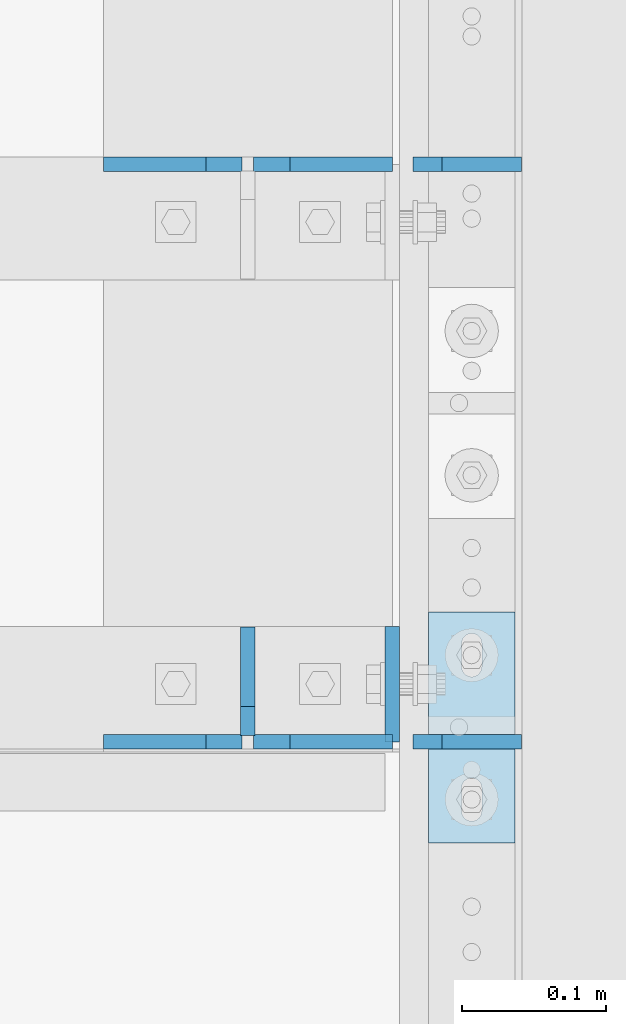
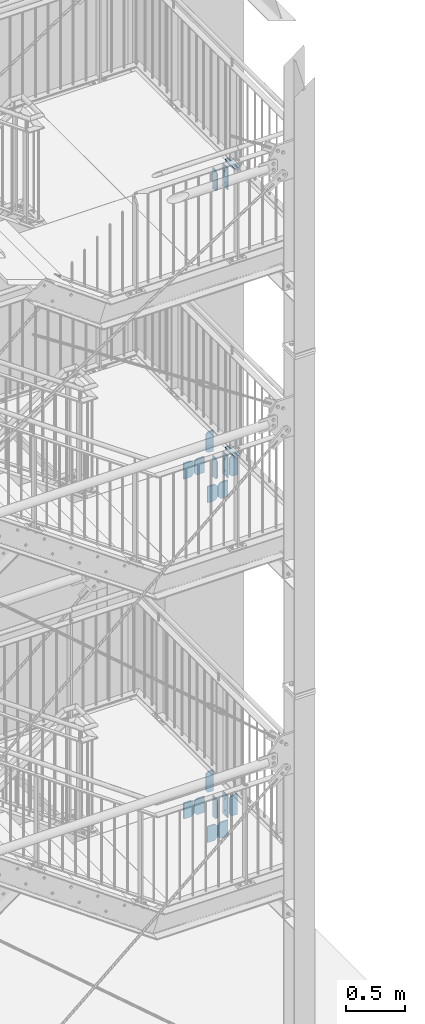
# One storey, part 206 of 831: 20 plates, 46 openings.
"""IFC2X3 building model written with IfcOpenShell, lengths in millimetres."""

import ifcopenshell
import ifcopenshell.guid

model = None  # the IFC model being written
_history = None  # IfcOwnerHistory: only IFC2X3 demands one
_inside = {}  # id of a spatial element -> (the spatial element, [elements in it])
_under = {}  # id of a project, library or spatial element -> (it, [spatial elements below it])
_declared = {}  # id of a project -> (the project, [libraries it declares])
_typed = {}  # id of a type object -> (the type object, [elements of that type])
_made_of = {}  # id of a material, layer set ... -> (it, [elements and type objects made of it])


def new_model(schema):
    """Start an empty IFC model of exactly this schema.

    Asked for "IFC4X3", IfcOpenShell would pick the latest addendum, in which some entities
    have other attributes; the version numbers below select the first issue.
    IFC2X3 requires an IfcOwnerHistory on every rooted entity: one is made here for all.
    """
    global model, _history
    if schema == "IFC4X3":
        model = ifcopenshell.file(schema_version=(4, 3, 0, 0))
    else:
        model = ifcopenshell.file(schema=schema)
    _inside.clear()
    _under.clear()
    _declared.clear()
    _typed.clear()
    _made_of.clear()
    _history = None
    if model.schema == "IFC2X3":
        org = make("IfcOrganization", Name="unknown")
        user = make(
            "IfcPersonAndOrganization",
            ThePerson=make("IfcPerson", FamilyName="unknown"),
            TheOrganization=org,
        )
        app = make(
            "IfcApplication",
            ApplicationDeveloper=org,
            Version="unknown",
            ApplicationFullName="unknown",
            ApplicationIdentifier="unknown",
        )
        _history = make(
            "IfcOwnerHistory",
            OwningUser=user,
            OwningApplication=app,
            ChangeAction="ADDED",
            CreationDate=0,
        )
    return model


def make(cls, **values):
    """One entity of the class cls with the attributes given. An attribute that is None is left unset."""
    return model.create_entity(
        cls, **{name: value for name, value in values.items() if value is not None}
    )


def entity(cls, *values):
    """Any entity or typed value of the class cls, its attributes in the order of the schema. None: left unset."""
    e = model.create_entity(cls)
    for i, value in enumerate(values):
        if value is not None:
            e[i] = value
    return e


def rooted(cls, **values):
    """An entity with a GlobalId (a new one), such as an element, a storey or a relation."""
    return make(cls, GlobalId=ifcopenshell.guid.new(), OwnerHistory=_history, **values)


def si_unit(unit_type, name, prefix=None):
    """IfcSIUnit, for example si_unit("LENGTHUNIT", "METRE", prefix="MILLI")."""
    return make("IfcSIUnit", UnitType=unit_type, Prefix=prefix, Name=name)


def converted_unit(unit_type, name, factor, base, dimensions=None, offset=None):
    """IfcConversionBasedUnit, such as the inch: factor (a typed value) times the base unit."""
    return make(
        "IfcConversionBasedUnit"
        if offset is None
        else "IfcConversionBasedUnitWithOffset",
        ConversionOffset=offset,
        Dimensions=None
        if dimensions is None
        else entity("IfcDimensionalExponents", *dimensions),
        UnitType=unit_type,
        Name=name,
        ConversionFactor=make(
            "IfcMeasureWithUnit", ValueComponent=factor, UnitComponent=base
        ),
    )


def assignment(units):
    """IfcUnitAssignment: the units of a project."""
    return None if units is None else make("IfcUnitAssignment", Units=units)


def point(xyz):
    """IfcCartesianPoint."""
    return None if xyz is None else make("IfcCartesianPoint", Coordinates=xyz)


def direction(xyz):
    """IfcDirection."""
    return None if xyz is None else make("IfcDirection", DirectionRatios=xyz)


def frame(location, z_axis=None, x_axis=None):
    """IfcAxis2Placement3D, a coordinate frame: its origin and axes. An axis left out is left unset."""
    return make(
        "IfcAxis2Placement3D",
        Location=point(location),
        Axis=direction(z_axis),
        RefDirection=direction(x_axis),
    )


def frame_2d(location, x_axis=None):
    """IfcAxis2Placement2D, a coordinate frame in the plane: its origin and x axis."""
    return make(
        "IfcAxis2Placement2D", Location=point(location), RefDirection=direction(x_axis)
    )


def origin():
    """The frame at (0, 0, 0) with its axes left unset."""
    return frame((0.0, 0.0, 0.0))


def origin_with_axes():
    """The frame at (0, 0, 0) with the z axis (0, 0, 1) and the x axis (1, 0, 0) written out."""
    return frame((0.0, 0.0, 0.0), z_axis=(0.0, 0.0, 1.0), x_axis=(1.0, 0.0, 0.0))


def origin_2d_with_axis():
    """The frame at (0, 0) in the plane with the x axis (1, 0) written out."""
    return frame_2d((0.0, 0.0), x_axis=(1.0, 0.0))


def place(relative_to, where):
    """IfcLocalPlacement: puts the frame where relative to a parent placement (None: the world)."""
    return make(
        "IfcLocalPlacement", PlacementRelTo=relative_to, RelativePlacement=where
    )


def context(
    kind, dimensions, precision=None, world=None, true_north=None, identifier=None
):
    """IfcGeometricRepresentationContext, for example the 3D "Model" context."""
    return make(
        "IfcGeometricRepresentationContext",
        ContextIdentifier=identifier,
        ContextType=kind,
        CoordinateSpaceDimension=dimensions,
        Precision=precision,
        WorldCoordinateSystem=world,
        TrueNorth=true_north,
    )


def project(units=None, contexts=None):
    """IfcProject with its units and contexts."""
    return rooted(
        "IfcProject",
        Name="project",
        RepresentationContexts=contexts,
        UnitsInContext=assignment(units),
    )


def spatial(cls, under=None, at=None, **own):
    """A site, building, storey or space (cls), placed at a placement, below another one or the project."""
    s = rooted(cls, ObjectPlacement=at, **own)
    if under is not None:
        _under.setdefault(under.id(), (under, []))[1].append(s)
    return s


def polyline(points):
    """IfcPolyline through the points."""
    return make("IfcPolyline", Points=[point(p) for p in points])


def circle_curve(where, radius):
    """IfcCircle in the frame where."""
    return make("IfcCircle", Position=where, Radius=radius)


def line_curve(start, along, magnitude):
    """IfcLine from a point along a vector."""
    return make(
        "IfcLine",
        Pnt=point(start),
        Dir=make("IfcVector", Orientation=direction(along), Magnitude=magnitude),
    )


def trimmed(basis, trim1, trim2, sense, master):
    """IfcTrimmedCurve: the piece of a basis curve between two trims."""
    return make(
        "IfcTrimmedCurve",
        BasisCurve=basis,
        Trim1=trim1,
        Trim2=trim2,
        SenseAgreement=sense,
        MasterRepresentation=master,
    )


def segment(curve, same_sense, transition):
    """IfcCompositeCurveSegment."""
    return make(
        "IfcCompositeCurveSegment",
        Transition=transition,
        SameSense=same_sense,
        ParentCurve=curve,
    )


def composite_curve(segments, self_intersect=None):
    """IfcCompositeCurve: segments joined end to end."""
    return make("IfcCompositeCurve", Segments=segments, SelfIntersect=self_intersect)


def profile(cls, at=None, kind="AREA", **sizes):
    """A parametric profile (cls). Its sizes go by their IFC names, for example OverallWidth=200.0."""
    return make(cls, ProfileType=kind, Position=at, **sizes)


def circle(**sizes):
    """IfcCircleProfileDef."""
    return profile("IfcCircleProfileDef", **sizes)


def outline(outer, holes=None, kind="AREA"):
    """IfcArbitraryClosedProfileDef: a profile drawn as a closed curve; with holes, ...WithVoids."""
    if holes is None:
        return make("IfcArbitraryClosedProfileDef", ProfileType=kind, OuterCurve=outer)
    return make(
        "IfcArbitraryProfileDefWithVoids",
        ProfileType=kind,
        OuterCurve=outer,
        InnerCurves=holes,
    )


def extrude(swept, where, along, depth):
    """IfcExtrudedAreaSolid: the profile swept, set in the frame where, extruded along a direction by depth."""
    return make(
        "IfcExtrudedAreaSolid",
        SweptArea=swept,
        Position=where,
        ExtrudedDirection=direction(along),
        Depth=depth,
    )


def shape(context_of_items, identifier, shape_type, items):
    """IfcShapeRepresentation: the items that make up one representation, for example the "Body"."""
    return make(
        "IfcShapeRepresentation",
        ContextOfItems=context_of_items,
        RepresentationIdentifier=identifier,
        RepresentationType=shape_type,
        Items=items,
    )


def material(Name=None, Category=None):
    """IfcMaterial."""
    return make("IfcMaterial", Name=Name, Category=Category)


def layer(
    of_material, thickness, ventilated=None, Name=None, Category=None, Priority=None
):
    """IfcMaterialLayer: one layer of a wall or slab, of a material (None: an air gap)."""
    return make(
        "IfcMaterialLayer",
        Material=of_material,
        LayerThickness=thickness,
        IsVentilated=ventilated,
        Name=Name,
        Category=Category,
        Priority=Priority,
    )


def layer_set(layers, Name=None):
    """IfcMaterialLayerSet."""
    return make("IfcMaterialLayerSet", MaterialLayers=layers, LayerSetName=Name)


def made_of(thing, what):
    """Note that an element or type object is made of a material, layer set ...; save() writes the relation."""
    if what is not None:
        _made_of.setdefault(what.id(), (what, []))[1].append(thing)
    return thing


def element(
    cls,
    number,
    at=None,
    inside=None,
    cuts=None,
    type_object=None,
    material=None,
    context=None,
    identifier="Body",
    shape_type=None,
    held_by="IfcProductDefinitionShape",
    body=None,
    shapes=None,
    **own,
):
    """One element of the class cls, such as IfcWall. Its Tag is "e" and its number.

    at: its placement. inside: the storey or other place that contains it. cuts: it is an
    opening in that element (IfcRelVoidsElement). A single representation is given by context,
    identifier, shape_type and body (its items); several are given by shapes. held_by: the class
    of the entity that holds the representations. save() writes the other relations.
    """
    e = rooted(cls, Tag="e%d" % number, ObjectPlacement=at, **own)
    if body is not None:
        shapes = [shape(context, identifier, shape_type, body)]
    if shapes is not None:
        e.Representation = make(held_by, Representations=shapes)
    if inside is not None:
        _inside.setdefault(inside.id(), (inside, []))[1].append(e)
    if cuts is not None:
        rooted(
            "IfcRelVoidsElement", RelatingBuildingElement=cuts, RelatedOpeningElement=e
        )
    if type_object is not None:
        _typed.setdefault(type_object.id(), (type_object, []))[1].append(e)
    return made_of(e, material)


def aggregate(whole, parts):
    """IfcRelAggregates: a whole, such as a stair, and the parts it consists of."""
    return rooted("IfcRelAggregates", RelatingObject=whole, RelatedObjects=parts)


def save(model, path):
    """Write the relations noted so far, then the file.

    IfcRelAggregates (storeys below a building ...), IfcRelContainedInSpatialStructure (elements
    in a storey), IfcRelDefinesByType, IfcRelAssociatesMaterial and IfcRelDeclares: one each for
    every whole, place, type object, material and project.
    """
    for whole, parts in _under.values():
        aggregate(whole, parts)
    for where, things in _inside.values():
        rooted(
            "IfcRelContainedInSpatialStructure",
            RelatedElements=things,
            RelatingStructure=where,
        )
    for kind, things in _typed.values():
        rooted("IfcRelDefinesByType", RelatedObjects=things, RelatingType=kind)
    for what, things in _made_of.values():
        rooted("IfcRelAssociatesMaterial", RelatedObjects=things, RelatingMaterial=what)
    for by, libraries in _declared.values():
        rooted("IfcRelDeclares", RelatingContext=by, RelatedDefinitions=libraries)
    model.write(path)


model = new_model("IFC2X3")

# Units and contexts
model_context = context("Model", 3, precision=1e-09, world=origin_with_axes())
ifc_project = project(units=[si_unit("LENGTHUNIT", "METRE", prefix="MILLI"), si_unit("AREAUNIT", "SQUARE_METRE"), si_unit("VOLUMEUNIT", "CUBIC_METRE"), converted_unit("PLANEANGLEUNIT", "DEGREE", entity("IfcPlaneAngleMeasure", 0.01745329), si_unit("PLANEANGLEUNIT", "RADIAN"), dimensions=[0, 0, 0, 0, 0, 0, 0])], contexts=[model_context])

# Site, building, storey
site_placement = place(None, origin_with_axes())
site = spatial("IfcSite", under=ifc_project, at=site_placement, Name="Site", CompositionType="ELEMENT")
building_placement = place(site_placement, origin_with_axes())
building = spatial("IfcBuilding", under=site, at=building_placement, Name="Struktur 1", CompositionType="ELEMENT")
storey_placement = place(building_placement, origin_with_axes())
storey = spatial("IfcBuildingStorey", under=building, at=storey_placement, Name="Default Storey", CompositionType="ELEMENT", Elevation=0.0)

# Plate, openings
ifc_material = material(Name="S235JR")
ifc_layer_1 = layer(ifc_material, 10.0)
ifc_layer_set_1 = layer_set([ifc_layer_1], Name="S235JR")
plate_1_placement = place(None, frame((8862.713402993, 5736.736971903, 5256.3947367), z_axis=(0.0, 1.0, 0.0), x_axis=(-1.0, 0.0, 0.0)))
plate_1 = element("IfcPlate", 1, at=plate_1_placement, inside=storey, material=ifc_layer_set_1, Name="Stiffener#1", ObjectType="Stiffener#1", context=model_context, shape_type="SweptSolid", body=[
    extrude(outline(polyline([(0.0, 0.0), (96.0, 0.0), (96.0, 167.0), (0.0, 167.0), (0.0, 0.0)])), origin_with_axes(), (0.0, 0.0, 1.0), 10.0),
])
opening_1_placement = place(plate_1_placement, frame((0.0, 0.0, -0.01), z_axis=(0.0, 0.0, 1.0), x_axis=(1.0, 0.0, 0.0)))
element("IfcOpeningElement", 2, at=opening_1_placement, cuts=plate_1, ObjectType="Opening", context=model_context, shape_type="SweptSolid", body=[
    extrude(outline(polyline([(0.0, 167.0), (0.0, 142.0), (25.0, 167.0), (0.0, 167.0)])), origin(), (0.0, 0.0, 1.0), 10.02),
])
opening_2_placement = place(plate_1_placement, frame((0.0, 0.0, -0.01), z_axis=(0.0, 0.0, 1.0), x_axis=(1.0, 0.0, 0.0)))
element("IfcOpeningElement", 3, at=opening_2_placement, cuts=plate_1, ObjectType="Opening", context=model_context, shape_type="SweptSolid", body=[
    extrude(outline(polyline([(0.0, 0.0), (25.0, 0.0), (0.0, 25.0), (0.0, 0.0)])), origin(), (0.0, 0.0, 1.0), 10.02),
])

plate_2_placement = place(None, frame((8966.713402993, 5736.736971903, 5256.3947367), z_axis=(0.0, 1.0, 0.0), x_axis=(-1.0, 0.0, 0.0)))
plate_2 = element("IfcPlate", 4, at=plate_2_placement, inside=storey, material=ifc_layer_set_1, Name="Stiffener#0", ObjectType="Stiffener#0", context=model_context, shape_type="SweptSolid", body=[
    extrude(outline(polyline([(0.0, 0.0), (96.0, 0.0), (96.0, 167.0), (0.0, 167.0), (0.0, 0.0)])), origin_with_axes(), (0.0, 0.0, 1.0), 10.0),
])
opening_3_placement = place(plate_2_placement, frame((0.0, 0.0, -0.01), z_axis=(0.0, 0.0, 1.0), x_axis=(1.0, 0.0, 0.0)))
element("IfcOpeningElement", 5, at=opening_3_placement, cuts=plate_2, ObjectType="Opening", context=model_context, shape_type="SweptSolid", body=[
    extrude(outline(polyline([(96.0, 167.0), (71.0, 167.0), (96.0, 142.0), (96.0, 167.0)])), origin(), (0.0, 0.0, 1.0), 10.02),
])
opening_4_placement = place(plate_2_placement, frame((0.0, 0.0, -0.01), z_axis=(0.0, 0.0, 1.0), x_axis=(1.0, 0.0, 0.0)))
element("IfcOpeningElement", 6, at=opening_4_placement, cuts=plate_2, ObjectType="Opening", context=model_context, shape_type="SweptSolid", body=[
    extrude(outline(polyline([(96.0, 0.0), (96.0, 25.0), (71.0, 0.0), (96.0, 0.0)])), origin(), (0.0, 0.0, 1.0), 10.02),
])

plate_3_placement = place(None, frame((8981.213402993, 5736.736971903, 5657.749898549), z_axis=(0.0, 1.0, 0.0), x_axis=(0.996815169, 0.0, 0.079746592)))
plate_3 = element("IfcPlate", 7, at=plate_3_placement, inside=storey, material=ifc_layer_set_1, Name="Stiffener#1", ObjectType="Stiffener#1", context=model_context, shape_type="SweptSolid", body=[
    extrude(outline(polyline([(0.0, 0.0), (75.239625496, 0.0), (57.877952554, 217.017159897), (-16.404697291, 205.05517107), (0.0, 0.0)])), origin_with_axes(), (0.0, 0.0, 1.0), 10.0),
])
opening_5_placement = place(plate_3_placement, frame((0.0, 0.0, -0.01), z_axis=(0.0, 0.0, 1.0), x_axis=(1.0, 0.0, 0.0)))
element("IfcOpeningElement", 8, at=opening_5_placement, cuts=plate_3, ObjectType="Opening", context=model_context, shape_type="SweptSolid", body=[
    extrude(outline(polyline([(-16.404697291, 205.05517107), (-14.809765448, 185.118867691), (3.34092195, 208.23487558), (-16.404697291, 205.05517107)])), origin(), (0.0, 0.0, 1.0), 10.02),
])
opening_6_placement = place(plate_3_placement, frame((0.0, 0.0, -0.01), z_axis=(0.0, 0.0, 1.0), x_axis=(1.0, 0.0, 0.0)))
element("IfcOpeningElement", 9, at=opening_6_placement, cuts=plate_3, ObjectType="Opening", context=model_context, shape_type="SweptSolid", body=[
    extrude(outline(polyline([(0.0, 0.0), (20.0, 0.0), (-1.594931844, 19.936303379), (0.0, 0.0)])), origin(), (0.0, 0.0, 1.0), 10.02),
])

plate_4_placement = place(None, frame((8981.213402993, 6136.736971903, 5657.749898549), z_axis=(0.0, 1.0, 0.0), x_axis=(0.996815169, 0.0, 0.079746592)))
plate_4 = element("IfcPlate", 10, at=plate_4_placement, inside=storey, material=ifc_layer_set_1, Name="Stiffener#1", ObjectType="Stiffener#1", context=model_context, shape_type="SweptSolid", body=[
    extrude(outline(polyline([(0.0, 0.0), (75.239625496, 0.0), (57.877952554, 217.017159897), (-16.404697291, 205.05517107), (0.0, 0.0)])), origin_with_axes(), (0.0, 0.0, 1.0), 10.0),
])
opening_7_placement = place(plate_4_placement, frame((0.0, 0.0, -0.01), z_axis=(0.0, 0.0, 1.0), x_axis=(1.0, 0.0, 0.0)))
element("IfcOpeningElement", 11, at=opening_7_placement, cuts=plate_4, ObjectType="Opening", context=model_context, shape_type="SweptSolid", body=[
    extrude(outline(polyline([(-16.404697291, 205.05517107), (-14.809765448, 185.118867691), (3.34092195, 208.23487558), (-16.404697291, 205.05517107)])), origin(), (0.0, 0.0, 1.0), 10.02),
])
opening_8_placement = place(plate_4_placement, frame((0.0, 0.0, -0.01), z_axis=(0.0, 0.0, 1.0), x_axis=(1.0, 0.0, 0.0)))
element("IfcOpeningElement", 12, at=opening_8_placement, cuts=plate_4, ObjectType="Opening", context=model_context, shape_type="SweptSolid", body=[
    extrude(outline(polyline([(0.0, 0.0), (20.0, 0.0), (-1.594931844, 19.936303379), (0.0, 0.0)])), origin(), (0.0, 0.0, 1.0), 10.02),
])

plate_5_placement = place(None, frame((8862.713402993, 6136.736971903, 5256.3947367), z_axis=(0.0, 1.0, 0.0), x_axis=(-1.0, 0.0, 0.0)))
plate_5 = element("IfcPlate", 13, at=plate_5_placement, inside=storey, material=ifc_layer_set_1, Name="Stiffener#1", ObjectType="Stiffener#1", context=model_context, shape_type="SweptSolid", body=[
    extrude(outline(polyline([(0.0, 0.0), (96.0, 0.0), (96.0, 167.0), (0.0, 167.0), (0.0, 0.0)])), origin_with_axes(), (0.0, 0.0, 1.0), 10.0),
])
opening_9_placement = place(plate_5_placement, frame((0.0, 0.0, -0.01), z_axis=(0.0, 0.0, 1.0), x_axis=(1.0, 0.0, 0.0)))
element("IfcOpeningElement", 14, at=opening_9_placement, cuts=plate_5, ObjectType="Opening", context=model_context, shape_type="SweptSolid", body=[
    extrude(outline(polyline([(0.0, 167.0), (0.0, 142.0), (25.0, 167.0), (0.0, 167.0)])), origin(), (0.0, 0.0, 1.0), 10.02),
])
opening_10_placement = place(plate_5_placement, frame((0.0, 0.0, -0.01), z_axis=(0.0, 0.0, 1.0), x_axis=(1.0, 0.0, 0.0)))
element("IfcOpeningElement", 15, at=opening_10_placement, cuts=plate_5, ObjectType="Opening", context=model_context, shape_type="SweptSolid", body=[
    extrude(outline(polyline([(0.0, 0.0), (25.0, 0.0), (0.0, 25.0), (0.0, 0.0)])), origin(), (0.0, 0.0, 1.0), 10.02),
])

plate_6_placement = place(None, frame((8966.713402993, 6136.736971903, 5256.3947367), z_axis=(0.0, 1.0, 0.0), x_axis=(-1.0, 0.0, 0.0)))
plate_6 = element("IfcPlate", 16, at=plate_6_placement, inside=storey, material=ifc_layer_set_1, Name="Stiffener#0", ObjectType="Stiffener#0", context=model_context, shape_type="SweptSolid", body=[
    extrude(outline(polyline([(0.0, 0.0), (96.0, 0.0), (96.0, 167.0), (0.0, 167.0), (0.0, 0.0)])), origin_with_axes(), (0.0, 0.0, 1.0), 10.0),
])
opening_11_placement = place(plate_6_placement, frame((0.0, 0.0, -0.01), z_axis=(0.0, 0.0, 1.0), x_axis=(1.0, 0.0, 0.0)))
element("IfcOpeningElement", 17, at=opening_11_placement, cuts=plate_6, ObjectType="Opening", context=model_context, shape_type="SweptSolid", body=[
    extrude(outline(polyline([(96.0, 167.0), (71.0, 167.0), (96.0, 142.0), (96.0, 167.0)])), origin(), (0.0, 0.0, 1.0), 10.02),
])
opening_12_placement = place(plate_6_placement, frame((0.0, 0.0, -0.01), z_axis=(0.0, 0.0, 1.0), x_axis=(1.0, 0.0, 0.0)))
element("IfcOpeningElement", 18, at=opening_12_placement, cuts=plate_6, ObjectType="Opening", context=model_context, shape_type="SweptSolid", body=[
    extrude(outline(polyline([(96.0, 0.0), (96.0, 25.0), (71.0, 0.0), (96.0, 0.0)])), origin(), (0.0, 0.0, 1.0), 10.02),
])

plate_7_placement = place(None, frame((8981.213402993, 5736.736971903, 2163.907793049), z_axis=(0.0, 1.0, 0.0), x_axis=(0.996815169, 0.0, 0.079746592)))
plate_7 = element("IfcPlate", 19, at=plate_7_placement, inside=storey, material=ifc_layer_set_1, Name="Stiffener#1", ObjectType="Stiffener#1", context=model_context, shape_type="SweptSolid", body=[
    extrude(outline(polyline([(0.0, 0.0), (75.239625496, 0.0), (57.877952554, 217.017159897), (-16.404697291, 205.05517107), (0.0, 0.0)])), origin_with_axes(), (0.0, 0.0, 1.0), 10.0),
])
opening_13_placement = place(plate_7_placement, frame((0.0, 0.0, -0.01), z_axis=(0.0, 0.0, 1.0), x_axis=(1.0, 0.0, 0.0)))
element("IfcOpeningElement", 20, at=opening_13_placement, cuts=plate_7, ObjectType="Opening", context=model_context, shape_type="SweptSolid", body=[
    extrude(outline(polyline([(-16.404697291, 205.05517107), (-14.809765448, 185.118867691), (3.34092195, 208.23487558), (-16.404697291, 205.05517107)])), origin(), (0.0, 0.0, 1.0), 10.02),
])
opening_14_placement = place(plate_7_placement, frame((0.0, 0.0, -0.01), z_axis=(0.0, 0.0, 1.0), x_axis=(1.0, 0.0, 0.0)))
element("IfcOpeningElement", 21, at=opening_14_placement, cuts=plate_7, ObjectType="Opening", context=model_context, shape_type="SweptSolid", body=[
    extrude(outline(polyline([(0.0, 0.0), (20.0, 0.0), (-1.594931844, 19.936303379), (0.0, 0.0)])), origin(), (0.0, 0.0, 1.0), 10.02),
])

plate_8_placement = place(None, frame((8862.713402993, 5736.736971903, 1762.5526312), z_axis=(0.0, 1.0, 0.0), x_axis=(-1.0, 0.0, 0.0)))
plate_8 = element("IfcPlate", 22, at=plate_8_placement, inside=storey, material=ifc_layer_set_1, Name="Stiffener#1", ObjectType="Stiffener#1", context=model_context, shape_type="SweptSolid", body=[
    extrude(outline(polyline([(0.0, 0.0), (96.0, 0.0), (96.0, 167.0), (0.0, 167.0), (0.0, 0.0)])), origin_with_axes(), (0.0, 0.0, 1.0), 10.0),
])
opening_15_placement = place(plate_8_placement, frame((0.0, 0.0, -0.01), z_axis=(0.0, 0.0, 1.0), x_axis=(1.0, 0.0, 0.0)))
element("IfcOpeningElement", 23, at=opening_15_placement, cuts=plate_8, ObjectType="Opening", context=model_context, shape_type="SweptSolid", body=[
    extrude(outline(polyline([(0.0, 167.0), (0.0, 142.0), (25.0, 167.0), (0.0, 167.0)])), origin(), (0.0, 0.0, 1.0), 10.02),
])
opening_16_placement = place(plate_8_placement, frame((0.0, 0.0, -0.01), z_axis=(0.0, 0.0, 1.0), x_axis=(1.0, 0.0, 0.0)))
element("IfcOpeningElement", 24, at=opening_16_placement, cuts=plate_8, ObjectType="Opening", context=model_context, shape_type="SweptSolid", body=[
    extrude(outline(polyline([(0.0, 0.0), (25.0, 0.0), (0.0, 25.0), (0.0, 0.0)])), origin(), (0.0, 0.0, 1.0), 10.02),
])

plate_9_placement = place(None, frame((8966.713402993, 5736.736971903, 1762.5526312), z_axis=(0.0, 1.0, 0.0), x_axis=(-1.0, 0.0, 0.0)))
plate_9 = element("IfcPlate", 25, at=plate_9_placement, inside=storey, material=ifc_layer_set_1, Name="Stiffener#0", ObjectType="Stiffener#0", context=model_context, shape_type="SweptSolid", body=[
    extrude(outline(polyline([(0.0, 0.0), (96.0, 0.0), (96.0, 167.0), (0.0, 167.0), (0.0, 0.0)])), origin_with_axes(), (0.0, 0.0, 1.0), 10.0),
])
opening_17_placement = place(plate_9_placement, frame((0.0, 0.0, -0.01), z_axis=(0.0, 0.0, 1.0), x_axis=(1.0, 0.0, 0.0)))
element("IfcOpeningElement", 26, at=opening_17_placement, cuts=plate_9, ObjectType="Opening", context=model_context, shape_type="SweptSolid", body=[
    extrude(outline(polyline([(96.0, 167.0), (71.0, 167.0), (96.0, 142.0), (96.0, 167.0)])), origin(), (0.0, 0.0, 1.0), 10.02),
])
opening_18_placement = place(plate_9_placement, frame((0.0, 0.0, -0.01), z_axis=(0.0, 0.0, 1.0), x_axis=(1.0, 0.0, 0.0)))
element("IfcOpeningElement", 27, at=opening_18_placement, cuts=plate_9, ObjectType="Opening", context=model_context, shape_type="SweptSolid", body=[
    extrude(outline(polyline([(96.0, 0.0), (96.0, 25.0), (71.0, 0.0), (96.0, 0.0)])), origin(), (0.0, 0.0, 1.0), 10.02),
])

plate_10_placement = place(None, frame((8981.213402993, 6136.736971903, 2163.907793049), z_axis=(0.0, 1.0, 0.0), x_axis=(0.996815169, 0.0, 0.079746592)))
plate_10 = element("IfcPlate", 28, at=plate_10_placement, inside=storey, material=ifc_layer_set_1, Name="Stiffener#1", ObjectType="Stiffener#1", context=model_context, shape_type="SweptSolid", body=[
    extrude(outline(polyline([(0.0, 0.0), (75.239625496, 0.0), (57.877952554, 217.017159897), (-16.404697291, 205.05517107), (0.0, 0.0)])), origin_with_axes(), (0.0, 0.0, 1.0), 10.0),
])
opening_19_placement = place(plate_10_placement, frame((0.0, 0.0, -0.01), z_axis=(0.0, 0.0, 1.0), x_axis=(1.0, 0.0, 0.0)))
element("IfcOpeningElement", 29, at=opening_19_placement, cuts=plate_10, ObjectType="Opening", context=model_context, shape_type="SweptSolid", body=[
    extrude(outline(polyline([(-16.404697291, 205.05517107), (-14.809765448, 185.118867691), (3.34092195, 208.23487558), (-16.404697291, 205.05517107)])), origin(), (0.0, 0.0, 1.0), 10.02),
])
opening_20_placement = place(plate_10_placement, frame((0.0, 0.0, -0.01), z_axis=(0.0, 0.0, 1.0), x_axis=(1.0, 0.0, 0.0)))
element("IfcOpeningElement", 30, at=opening_20_placement, cuts=plate_10, ObjectType="Opening", context=model_context, shape_type="SweptSolid", body=[
    extrude(outline(polyline([(0.0, 0.0), (20.0, 0.0), (-1.594931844, 19.936303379), (0.0, 0.0)])), origin(), (0.0, 0.0, 1.0), 10.02),
])

plate_11_placement = place(None, frame((8862.713402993, 6136.736971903, 1762.5526312), z_axis=(0.0, 1.0, 0.0), x_axis=(-1.0, 0.0, 0.0)))
plate_11 = element("IfcPlate", 31, at=plate_11_placement, inside=storey, material=ifc_layer_set_1, Name="Stiffener#1", ObjectType="Stiffener#1", context=model_context, shape_type="SweptSolid", body=[
    extrude(outline(polyline([(0.0, 0.0), (96.0, 0.0), (96.0, 167.0), (0.0, 167.0), (0.0, 0.0)])), origin_with_axes(), (0.0, 0.0, 1.0), 10.0),
])
opening_21_placement = place(plate_11_placement, frame((0.0, 0.0, -0.01), z_axis=(0.0, 0.0, 1.0), x_axis=(1.0, 0.0, 0.0)))
element("IfcOpeningElement", 32, at=opening_21_placement, cuts=plate_11, ObjectType="Opening", context=model_context, shape_type="SweptSolid", body=[
    extrude(outline(polyline([(0.0, 167.0), (0.0, 142.0), (25.0, 167.0), (0.0, 167.0)])), origin(), (0.0, 0.0, 1.0), 10.02),
])
opening_22_placement = place(plate_11_placement, frame((0.0, 0.0, -0.01), z_axis=(0.0, 0.0, 1.0), x_axis=(1.0, 0.0, 0.0)))
element("IfcOpeningElement", 33, at=opening_22_placement, cuts=plate_11, ObjectType="Opening", context=model_context, shape_type="SweptSolid", body=[
    extrude(outline(polyline([(0.0, 0.0), (25.0, 0.0), (0.0, 25.0), (0.0, 0.0)])), origin(), (0.0, 0.0, 1.0), 10.02),
])

plate_12_placement = place(None, frame((8966.713402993, 6136.736971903, 1762.5526312), z_axis=(0.0, 1.0, 0.0), x_axis=(-1.0, 0.0, 0.0)))
plate_12 = element("IfcPlate", 34, at=plate_12_placement, inside=storey, material=ifc_layer_set_1, Name="Stiffener#0", ObjectType="Stiffener#0", context=model_context, shape_type="SweptSolid", body=[
    extrude(outline(polyline([(0.0, 0.0), (96.0, 0.0), (96.0, 167.0), (0.0, 167.0), (0.0, 0.0)])), origin_with_axes(), (0.0, 0.0, 1.0), 10.0),
])
opening_23_placement = place(plate_12_placement, frame((0.0, 0.0, -0.01), z_axis=(0.0, 0.0, 1.0), x_axis=(1.0, 0.0, 0.0)))
element("IfcOpeningElement", 35, at=opening_23_placement, cuts=plate_12, ObjectType="Opening", context=model_context, shape_type="SweptSolid", body=[
    extrude(outline(polyline([(96.0, 167.0), (71.0, 167.0), (96.0, 142.0), (96.0, 167.0)])), origin(), (0.0, 0.0, 1.0), 10.02),
])
opening_24_placement = place(plate_12_placement, frame((0.0, 0.0, -0.01), z_axis=(0.0, 0.0, 1.0), x_axis=(1.0, 0.0, 0.0)))
element("IfcOpeningElement", 36, at=opening_24_placement, cuts=plate_12, ObjectType="Opening", context=model_context, shape_type="SweptSolid", body=[
    extrude(outline(polyline([(96.0, 0.0), (96.0, 25.0), (71.0, 0.0), (96.0, 0.0)])), origin(), (0.0, 0.0, 1.0), 10.02),
])

ifc_layer_2 = layer(ifc_material, 20.0)
ifc_layer_set_2 = layer_set([ifc_layer_2], Name="S235JR")
plate_13_placement = place(None, frame((9051.713402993, 5671.736114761, 5674.8947367), z_axis=(0.0, 0.0, 1.0), x_axis=(0.0, 1.0, 0.0)))
plate_13 = element("IfcPlate", 37, at=plate_13_placement, inside=storey, material=ifc_layer_set_2, Name="Plate#506", ObjectType="Plate#506", context=model_context, shape_type="SweptSolid", body=[
    extrude(outline(polyline([(0.0, 0.0), (160.0, 0.0), (160.0, 60.0), (0.0, 60.0), (0.0, 0.0)])), origin_with_axes(), (0.0, 0.0, 1.0), 20.0),
])
opening_25_placement = place(plate_13_placement, frame((38.0, 37.001, 20.5), z_axis=(0.0, 0.0, 1.0), x_axis=(-1.0, 0.0, 0.0)))
element("IfcOpeningElement", 38, at=opening_25_placement, cuts=plate_13, ObjectType="Opening", context=model_context, shape_type="SweptSolid", body=[
    extrude(outline(composite_curve([segment(trimmed(line_curve((0.0, 0.0), (1.0, 0.0), 16.0), [point((0.0, 0.0))], [point((16.0, 0.0))], True, "CARTESIAN"), True, "CONTINUOUS"), segment(trimmed(circle_curve(frame_2d((16.0, 7.001), x_axis=(1.0, 0.0)), 7.001), [point((16.0, 0.0))], [point((16.0, 14.002))], True, "CARTESIAN"), True, "CONTINUOUS"), segment(trimmed(line_curve((16.0, 14.002), (-1.0, 0.0), 16.0), [point((16.0, 14.002))], [point((0.0, 14.002))], True, "CARTESIAN"), True, "CONTINUOUS"), segment(trimmed(circle_curve(frame_2d((0.0, 7.001), x_axis=(1.0, 0.0)), 7.001), [point((0.0, 14.002))], [point((0.0, 0.0))], True, "CARTESIAN"), True, "CONTINUOUS")], self_intersect=False)), origin(), (0.0, 0.0, -1.0), 21.0),
])
opening_26_placement = place(plate_13_placement, frame((138.0, 37.001, 20.5), z_axis=(0.0, 0.0, 1.0), x_axis=(-1.0, 0.0, 0.0)))
element("IfcOpeningElement", 39, at=opening_26_placement, cuts=plate_13, ObjectType="Opening", context=model_context, shape_type="SweptSolid", body=[
    extrude(outline(composite_curve([segment(trimmed(line_curve((0.0, 0.0), (1.0, 0.0), 16.0), [point((0.0, 0.0))], [point((16.0, 0.0))], True, "CARTESIAN"), True, "CONTINUOUS"), segment(trimmed(circle_curve(frame_2d((16.0, 7.001), x_axis=(1.0, 0.0)), 7.001), [point((16.0, 0.0))], [point((16.0, 14.002))], True, "CARTESIAN"), True, "CONTINUOUS"), segment(trimmed(line_curve((16.0, 14.002), (-1.0, 0.0), 16.0), [point((16.0, 14.002))], [point((0.0, 14.002))], True, "CARTESIAN"), True, "CONTINUOUS"), segment(trimmed(circle_curve(frame_2d((0.0, 7.001), x_axis=(1.0, 0.0)), 7.001), [point((0.0, 14.002))], [point((0.0, 0.0))], True, "CARTESIAN"), True, "CONTINUOUS")], self_intersect=False)), origin(), (0.0, 0.0, -1.0), 21.0),
])

plate_14_placement = place(None, frame((9051.713402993, 5671.736114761, 8636.0), z_axis=(0.0, 0.0, 1.0), x_axis=(0.0, 1.0, 0.0)))
plate_14 = element("IfcPlate", 40, at=plate_14_placement, inside=storey, material=ifc_layer_set_2, Name="Plate#506", ObjectType="Plate#506", context=model_context, shape_type="SweptSolid", body=[
    extrude(outline(polyline([(0.0, 0.0), (160.0, 0.0), (160.0, 60.0), (0.0, 60.0), (0.0, 0.0)])), origin_with_axes(), (0.0, 0.0, 1.0), 20.0),
])
opening_27_placement = place(plate_14_placement, frame((38.0, 37.001, 20.5), z_axis=(0.0, 0.0, 1.0), x_axis=(-1.0, 0.0, 0.0)))
element("IfcOpeningElement", 41, at=opening_27_placement, cuts=plate_14, ObjectType="Opening", context=model_context, shape_type="SweptSolid", body=[
    extrude(outline(composite_curve([segment(trimmed(line_curve((0.0, 0.0), (1.0, 0.0), 16.0), [point((0.0, 0.0))], [point((16.0, 0.0))], True, "CARTESIAN"), True, "CONTINUOUS"), segment(trimmed(circle_curve(frame_2d((16.0, 7.001), x_axis=(1.0, 0.0)), 7.001), [point((16.0, 0.0))], [point((16.0, 14.002))], True, "CARTESIAN"), True, "CONTINUOUS"), segment(trimmed(line_curve((16.0, 14.002), (-1.0, 0.0), 16.0), [point((16.0, 14.002))], [point((0.0, 14.002))], True, "CARTESIAN"), True, "CONTINUOUS"), segment(trimmed(circle_curve(frame_2d((0.0, 7.001), x_axis=(1.0, 0.0)), 7.001), [point((0.0, 14.002))], [point((0.0, 0.0))], True, "CARTESIAN"), True, "CONTINUOUS")], self_intersect=False)), origin(), (0.0, 0.0, -1.0), 21.0),
])
opening_28_placement = place(plate_14_placement, frame((138.0, 37.001, 20.5), z_axis=(0.0, 0.0, 1.0), x_axis=(-1.0, 0.0, 0.0)))
element("IfcOpeningElement", 42, at=opening_28_placement, cuts=plate_14, ObjectType="Opening", context=model_context, shape_type="SweptSolid", body=[
    extrude(outline(composite_curve([segment(trimmed(line_curve((0.0, 0.0), (1.0, 0.0), 16.0), [point((0.0, 0.0))], [point((16.0, 0.0))], True, "CARTESIAN"), True, "CONTINUOUS"), segment(trimmed(circle_curve(frame_2d((16.0, 7.001), x_axis=(1.0, 0.0)), 7.001), [point((16.0, 0.0))], [point((16.0, 14.002))], True, "CARTESIAN"), True, "CONTINUOUS"), segment(trimmed(line_curve((16.0, 14.002), (-1.0, 0.0), 16.0), [point((16.0, 14.002))], [point((0.0, 14.002))], True, "CARTESIAN"), True, "CONTINUOUS"), segment(trimmed(circle_curve(frame_2d((0.0, 7.001), x_axis=(1.0, 0.0)), 7.001), [point((0.0, 14.002))], [point((0.0, 0.0))], True, "CARTESIAN"), True, "CONTINUOUS")], self_intersect=False)), origin(), (0.0, 0.0, -1.0), 21.0),
])

plate_15_placement = place(None, frame((8861.713402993, 5821.236971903, 2169.907896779), z_axis=(1.0, 0.0, 0.0), x_axis=(0.0, -0.996815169, -0.079746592)))
plate_15 = element("IfcPlate", 43, at=plate_15_placement, inside=storey, material=ifc_layer_set_1, Name="Stiffener#1", ObjectType="Stiffener#1", context=model_context, shape_type="SweptSolid", body=[
    extrude(outline(polyline([(0.0, 0.0), (75.239625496, 0.0), (91.644322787, 205.05517107), (17.361672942, 217.017159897), (0.0, 0.0)])), origin_with_axes(), (0.0, 0.0, 1.0), 10.0),
])
opening_29_placement = place(plate_15_placement, frame((0.0, 0.0, -0.01), z_axis=(0.0, 0.0, 1.0), x_axis=(1.0, 0.0, 0.0)))
element("IfcOpeningElement", 44, at=opening_29_placement, cuts=plate_15, ObjectType="Opening", context=model_context, shape_type="SweptSolid", body=[
    extrude(outline(polyline([(91.644322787, 205.05517107), (71.898703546, 208.23487558), (90.049390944, 185.118867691), (91.644322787, 205.05517107)])), origin(), (0.0, 0.0, 1.0), 10.02),
])
opening_30_placement = place(plate_15_placement, frame((0.0, 0.0, -0.01), z_axis=(0.0, 0.0, 1.0), x_axis=(1.0, 0.0, 0.0)))
element("IfcOpeningElement", 45, at=opening_30_placement, cuts=plate_15, ObjectType="Opening", context=model_context, shape_type="SweptSolid", body=[
    extrude(outline(polyline([(75.239625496, 0.0), (76.83455734, 19.936303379), (55.239625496, 0.0), (75.239625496, 0.0)])), origin(), (0.0, 0.0, 1.0), 10.02),
])

plate_16_placement = place(None, frame((8971.713402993, 5741.736971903, 2176.0526312), z_axis=(-1.0, 0.0, 0.0), x_axis=(0.0, 1.0, 0.0)))
plate_16 = element("IfcPlate", 46, at=plate_16_placement, inside=storey, material=ifc_layer_set_1, Name="Endplate", ObjectType="Endplate", context=model_context, shape_type="SweptSolid", body=[
    extrude(outline(polyline([(0.0, 0.0), (80.0, 0.0), (80.0, 230.0), (0.0, 230.0), (0.0, 0.0)])), origin_with_axes(), (0.0, 0.0, 1.0), 10.0),
])
opening_31_placement = place(plate_16_placement, frame((17.5, 209.0, -0.5), z_axis=(0.0, 0.0, 1.0), x_axis=(0.0, -1.0, 0.0)))
element("IfcOpeningElement", 47, at=opening_31_placement, cuts=plate_16, ObjectType="Opening", context=model_context, shape_type="SweptSolid", body=[
    extrude(circle(Radius=6.001, at=origin_2d_with_axis()), origin(), (0.0, 0.0, 1.0), 11.0),
])
opening_32_placement = place(plate_16_placement, frame((17.5, 21.0, -0.5), z_axis=(0.0, 0.0, 1.0), x_axis=(0.0, -1.0, 0.0)))
element("IfcOpeningElement", 48, at=opening_32_placement, cuts=plate_16, ObjectType="Opening", context=model_context, shape_type="SweptSolid", body=[
    extrude(circle(Radius=6.001, at=origin_2d_with_axis()), origin(), (0.0, 0.0, 1.0), 11.0),
])
opening_33_placement = place(plate_16_placement, frame((40.0, 115.0, -0.5), z_axis=(0.0, 0.0, 1.0), x_axis=(0.0, -1.0, 0.0)))
element("IfcOpeningElement", 49, at=opening_33_placement, cuts=plate_16, ObjectType="Opening", context=model_context, shape_type="SweptSolid", body=[
    extrude(circle(Radius=9.001, at=frame_2d((60.0, 0.0), x_axis=(1.0, 0.0))), origin(), (0.0, 0.0, 1.0), 11.0),
])
opening_34_placement = place(plate_16_placement, frame((40.0, 115.0, -0.5), z_axis=(0.0, 0.0, 1.0), x_axis=(0.0, -1.0, 0.0)))
element("IfcOpeningElement", 50, at=opening_34_placement, cuts=plate_16, ObjectType="Opening", context=model_context, shape_type="SweptSolid", body=[
    extrude(circle(Radius=9.001, at=frame_2d((-60.0, 0.0), x_axis=(1.0, 0.0))), origin(), (0.0, 0.0, 1.0), 11.0),
])

plate_17_placement = place(None, frame((8861.713402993, 5821.236971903, 5663.750002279), z_axis=(1.0, 0.0, 0.0), x_axis=(0.0, -0.996815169, -0.079746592)))
plate_17 = element("IfcPlate", 51, at=plate_17_placement, inside=storey, material=ifc_layer_set_1, Name="Stiffener#1", ObjectType="Stiffener#1", context=model_context, shape_type="SweptSolid", body=[
    extrude(outline(polyline([(0.0, 0.0), (75.239625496, 0.0), (91.644322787, 205.05517107), (17.361672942, 217.017159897), (0.0, 0.0)])), origin_with_axes(), (0.0, 0.0, 1.0), 10.0),
])
opening_35_placement = place(plate_17_placement, frame((0.0, 0.0, -0.01), z_axis=(0.0, 0.0, 1.0), x_axis=(1.0, 0.0, 0.0)))
element("IfcOpeningElement", 52, at=opening_35_placement, cuts=plate_17, ObjectType="Opening", context=model_context, shape_type="SweptSolid", body=[
    extrude(outline(polyline([(91.644322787, 205.05517107), (71.898703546, 208.23487558), (90.049390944, 185.118867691), (91.644322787, 205.05517107)])), origin(), (0.0, 0.0, 1.0), 10.02),
])
opening_36_placement = place(plate_17_placement, frame((0.0, 0.0, -0.01), z_axis=(0.0, 0.0, 1.0), x_axis=(1.0, 0.0, 0.0)))
element("IfcOpeningElement", 53, at=opening_36_placement, cuts=plate_17, ObjectType="Opening", context=model_context, shape_type="SweptSolid", body=[
    extrude(outline(polyline([(75.239625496, 0.0), (76.83455734, 19.936303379), (55.239625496, 0.0), (75.239625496, 0.0)])), origin(), (0.0, 0.0, 1.0), 10.02),
])

plate_18_placement = place(None, frame((8971.713402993, 5741.736971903, 5669.8947367), z_axis=(-1.0, 0.0, 0.0), x_axis=(0.0, 1.0, 0.0)))
plate_18 = element("IfcPlate", 54, at=plate_18_placement, inside=storey, material=ifc_layer_set_1, Name="Endplate", ObjectType="Endplate", context=model_context, shape_type="SweptSolid", body=[
    extrude(outline(polyline([(0.0, 0.0), (80.0, 0.0), (80.0, 230.0), (0.0, 230.0), (0.0, 0.0)])), origin_with_axes(), (0.0, 0.0, 1.0), 10.0),
])
opening_37_placement = place(plate_18_placement, frame((17.5, 209.0, -0.5), z_axis=(0.0, 0.0, 1.0), x_axis=(0.0, -1.0, 0.0)))
element("IfcOpeningElement", 55, at=opening_37_placement, cuts=plate_18, ObjectType="Opening", context=model_context, shape_type="SweptSolid", body=[
    extrude(circle(Radius=6.001, at=origin_2d_with_axis()), origin(), (0.0, 0.0, 1.0), 11.0),
])
opening_38_placement = place(plate_18_placement, frame((17.5, 21.0, -0.5), z_axis=(0.0, 0.0, 1.0), x_axis=(0.0, -1.0, 0.0)))
element("IfcOpeningElement", 56, at=opening_38_placement, cuts=plate_18, ObjectType="Opening", context=model_context, shape_type="SweptSolid", body=[
    extrude(circle(Radius=6.001, at=origin_2d_with_axis()), origin(), (0.0, 0.0, 1.0), 11.0),
])
opening_39_placement = place(plate_18_placement, frame((40.0, 115.0, -0.5), z_axis=(0.0, 0.0, 1.0), x_axis=(0.0, -1.0, 0.0)))
element("IfcOpeningElement", 57, at=opening_39_placement, cuts=plate_18, ObjectType="Opening", context=model_context, shape_type="SweptSolid", body=[
    extrude(circle(Radius=9.001, at=frame_2d((60.0, 0.0), x_axis=(1.0, 0.0))), origin(), (0.0, 0.0, 1.0), 11.0),
])
opening_40_placement = place(plate_18_placement, frame((40.0, 115.0, -0.5), z_axis=(0.0, 0.0, 1.0), x_axis=(0.0, -1.0, 0.0)))
element("IfcOpeningElement", 58, at=opening_40_placement, cuts=plate_18, ObjectType="Opening", context=model_context, shape_type="SweptSolid", body=[
    extrude(circle(Radius=9.001, at=frame_2d((-60.0, 0.0), x_axis=(1.0, 0.0))), origin(), (0.0, 0.0, 1.0), 11.0),
])

plate_19_placement = place(None, frame((8861.713402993, 5821.236971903, 8624.855265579), z_axis=(1.0, 0.0, 0.0), x_axis=(0.0, -0.996815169, -0.079746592)))
plate_19 = element("IfcPlate", 59, at=plate_19_placement, inside=storey, material=ifc_layer_set_1, Name="Stiffener#1", ObjectType="Stiffener#1", context=model_context, shape_type="SweptSolid", body=[
    extrude(outline(polyline([(0.0, 0.0), (75.239625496, 0.0), (91.644322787, 205.05517107), (17.361672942, 217.017159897), (0.0, 0.0)])), origin_with_axes(), (0.0, 0.0, 1.0), 10.0),
])
opening_41_placement = place(plate_19_placement, frame((0.0, 0.0, -0.01), z_axis=(0.0, 0.0, 1.0), x_axis=(1.0, 0.0, 0.0)))
element("IfcOpeningElement", 60, at=opening_41_placement, cuts=plate_19, ObjectType="Opening", context=model_context, shape_type="SweptSolid", body=[
    extrude(outline(polyline([(91.644322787, 205.05517107), (71.898703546, 208.23487558), (90.049390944, 185.118867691), (91.644322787, 205.05517107)])), origin(), (0.0, 0.0, 1.0), 10.02),
])
opening_42_placement = place(plate_19_placement, frame((0.0, 0.0, -0.01), z_axis=(0.0, 0.0, 1.0), x_axis=(1.0, 0.0, 0.0)))
element("IfcOpeningElement", 61, at=opening_42_placement, cuts=plate_19, ObjectType="Opening", context=model_context, shape_type="SweptSolid", body=[
    extrude(outline(polyline([(75.239625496, 0.0), (76.83455734, 19.936303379), (55.239625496, 0.0), (75.239625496, 0.0)])), origin(), (0.0, 0.0, 1.0), 10.02),
])

plate_20_placement = place(None, frame((8971.713402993, 5741.736971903, 8631.0), z_axis=(-1.0, 0.0, 0.0), x_axis=(0.0, 1.0, 0.0)))
plate_20 = element("IfcPlate", 62, at=plate_20_placement, inside=storey, material=ifc_layer_set_1, Name="Endplate", ObjectType="Endplate", context=model_context, shape_type="SweptSolid", body=[
    extrude(outline(polyline([(0.0, 0.0), (80.0, 0.0), (80.0, 230.0), (0.0, 230.0), (0.0, 0.0)])), origin_with_axes(), (0.0, 0.0, 1.0), 10.0),
])
opening_43_placement = place(plate_20_placement, frame((17.5, 209.0, -0.5), z_axis=(0.0, 0.0, 1.0), x_axis=(0.0, -1.0, 0.0)))
element("IfcOpeningElement", 63, at=opening_43_placement, cuts=plate_20, ObjectType="Opening", context=model_context, shape_type="SweptSolid", body=[
    extrude(circle(Radius=6.001, at=origin_2d_with_axis()), origin(), (0.0, 0.0, 1.0), 11.0),
])
opening_44_placement = place(plate_20_placement, frame((17.5, 21.0, -0.5), z_axis=(0.0, 0.0, 1.0), x_axis=(0.0, -1.0, 0.0)))
element("IfcOpeningElement", 64, at=opening_44_placement, cuts=plate_20, ObjectType="Opening", context=model_context, shape_type="SweptSolid", body=[
    extrude(circle(Radius=6.001, at=origin_2d_with_axis()), origin(), (0.0, 0.0, 1.0), 11.0),
])
opening_45_placement = place(plate_20_placement, frame((40.0, 115.0, -0.5), z_axis=(0.0, 0.0, 1.0), x_axis=(0.0, -1.0, 0.0)))
element("IfcOpeningElement", 65, at=opening_45_placement, cuts=plate_20, ObjectType="Opening", context=model_context, shape_type="SweptSolid", body=[
    extrude(circle(Radius=9.001, at=frame_2d((60.0, 0.0), x_axis=(1.0, 0.0))), origin(), (0.0, 0.0, 1.0), 11.0),
])
opening_46_placement = place(plate_20_placement, frame((40.0, 115.0, -0.5), z_axis=(0.0, 0.0, 1.0), x_axis=(0.0, -1.0, 0.0)))
element("IfcOpeningElement", 66, at=opening_46_placement, cuts=plate_20, ObjectType="Opening", context=model_context, shape_type="SweptSolid", body=[
    extrude(circle(Radius=9.001, at=frame_2d((-60.0, 0.0), x_axis=(1.0, 0.0))), origin(), (0.0, 0.0, 1.0), 11.0),
])

save(model, "model.ifc")
